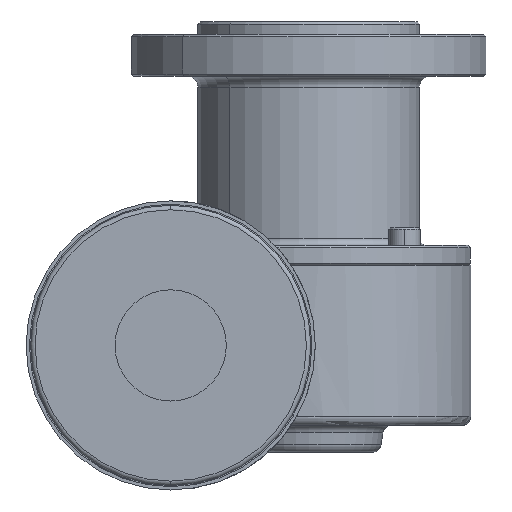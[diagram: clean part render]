
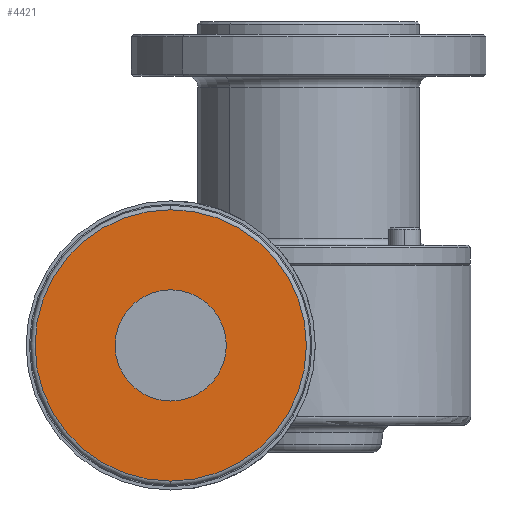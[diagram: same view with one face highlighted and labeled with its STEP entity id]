
A CAD part, left-side view. The second image highlights one B-rep face of the part: STEP entity #4421.
In plain terms, the highlighted planar face has unit normal (-1, 0, 0).
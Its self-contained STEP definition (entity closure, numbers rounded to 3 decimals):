
#14 = DIRECTION ( 'NONE',  ( -1., 0., 0. ) ) ;
#128 = CARTESIAN_POINT ( 'NONE',  ( -271.652, 33.484, -50.6 ) ) ;
#345 = VERTEX_POINT ( 'NONE', #128 ) ;
#860 = CIRCLE ( 'NONE', #5585, 30.5 ) ;
#866 = CARTESIAN_POINT ( 'NONE',  ( -271.652, 45.984, -20.1 ) ) ;
#1268 = ORIENTED_EDGE ( 'NONE', *, *, #5255, .F. ) ;
#1363 = AXIS2_PLACEMENT_3D ( 'NONE', #5703, #14, #7184 ) ;
#1448 = DIRECTION ( 'NONE',  ( 0., 0., 1. ) ) ;
#1682 = FACE_OUTER_BOUND ( 'NONE', #5975, .T. ) ;
#2107 = DIRECTION ( 'NONE',  ( 0., 0., -1. ) ) ;
#2114 = ORIENTED_EDGE ( 'NONE', *, *, #7106, .T. ) ;
#2734 = AXIS2_PLACEMENT_3D ( 'NONE', #7121, #5587, #2107 ) ;
#3813 = DIRECTION ( 'NONE',  ( 1., 0., 0. ) ) ;
#4421 = ADVANCED_FACE ( 'NONE', ( #1682, #4621 ), #7354, .F. ) ;
#4426 = DIRECTION ( 'NONE',  ( -1., 0., 0. ) ) ;
#4621 = FACE_BOUND ( 'NONE', #5744, .T. ) ;
#4646 = EDGE_CURVE ( 'NONE', #7950, #345, #8365, .T. ) ;
#4658 = ORIENTED_EDGE ( 'NONE', *, *, #4646, .T. ) ;
#4964 = VERTEX_POINT ( 'NONE', #6156 ) ;
#4996 = CIRCLE ( 'NONE', #5893, 12.5 ) ;
#5255 = EDGE_CURVE ( 'NONE', #7631, #4964, #7272, .T. ) ;
#5519 = CARTESIAN_POINT ( 'NONE',  ( -271.652, 33.484, -20.1 ) ) ;
#5585 = AXIS2_PLACEMENT_3D ( 'NONE', #9421, #4426, #7264 ) ;
#5587 = DIRECTION ( 'NONE',  ( -1., 0., 0. ) ) ;
#5703 = CARTESIAN_POINT ( 'NONE',  ( -271.652, 33.484, -20.1 ) ) ;
#5744 = EDGE_LOOP ( 'NONE', ( #8568, #1268 ) ) ;
#5893 = AXIS2_PLACEMENT_3D ( 'NONE', #5519, #6480, #1448 ) ;
#5975 = EDGE_LOOP ( 'NONE', ( #2114, #4658 ) ) ;
#6156 = CARTESIAN_POINT ( 'NONE',  ( -271.652, 33.484, -7.6 ) ) ;
#6480 = DIRECTION ( 'NONE',  ( -1., 0., 0. ) ) ;
#6644 = DIRECTION ( 'NONE',  ( 0., 0., -1. ) ) ;
#7088 = AXIS2_PLACEMENT_3D ( 'NONE', #866, #3813, #6644 ) ;
#7106 = EDGE_CURVE ( 'NONE', #345, #7950, #860, .T. ) ;
#7121 = CARTESIAN_POINT ( 'NONE',  ( -271.652, 33.484, -20.1 ) ) ;
#7184 = DIRECTION ( 'NONE',  ( 0., 0., 1. ) ) ;
#7264 = DIRECTION ( 'NONE',  ( 0., 0., -1. ) ) ;
#7272 = CIRCLE ( 'NONE', #1363, 12.5 ) ;
#7354 = PLANE ( 'NONE',  #7088 ) ;
#7631 = VERTEX_POINT ( 'NONE', #7769 ) ;
#7769 = CARTESIAN_POINT ( 'NONE',  ( -271.652, 33.484, -32.6 ) ) ;
#7950 = VERTEX_POINT ( 'NONE', #9402 ) ;
#8365 = CIRCLE ( 'NONE', #2734, 30.5 ) ;
#8568 = ORIENTED_EDGE ( 'NONE', *, *, #9236, .F. ) ;
#9236 = EDGE_CURVE ( 'NONE', #4964, #7631, #4996, .T. ) ;
#9402 = CARTESIAN_POINT ( 'NONE',  ( -271.652, 33.484, 10.4 ) ) ;
#9421 = CARTESIAN_POINT ( 'NONE',  ( -271.652, 33.484, -20.1 ) ) ;
